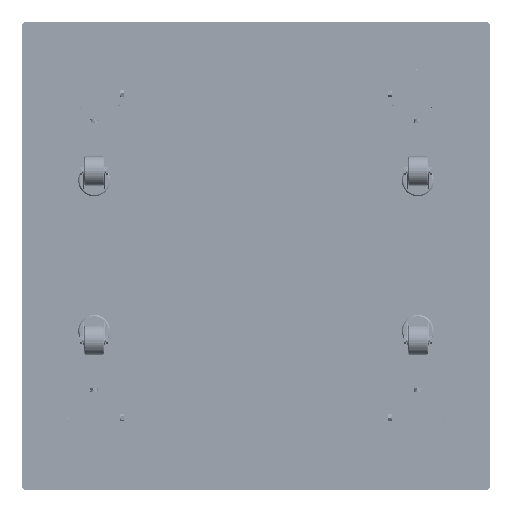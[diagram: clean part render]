
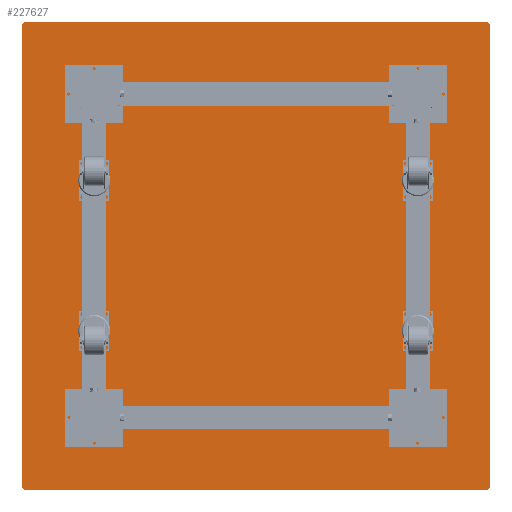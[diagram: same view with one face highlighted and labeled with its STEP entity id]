
A CAD part, top view. The second image highlights one B-rep face of the part: STEP entity #227627.
In plain terms, the highlighted planar face has unit normal (0, 0, 1).
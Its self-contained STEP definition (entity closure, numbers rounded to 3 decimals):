
#14764 = CIRCLE ( 'NONE', #134301, 10. ) ;
#32048 = FACE_OUTER_BOUND ( 'NONE', #264658, .T. ) ;
#34825 = VERTEX_POINT ( 'NONE', #326820 ) ;
#35478 = DIRECTION ( 'NONE',  ( 1., 0., 0. ) ) ;
#52862 = AXIS2_PLACEMENT_3D ( 'NONE', #204138, #232272, #35478 ) ;
#58276 = VECTOR ( 'NONE', #305941, 1000. ) ;
#66383 = ORIENTED_EDGE ( 'NONE', *, *, #175237, .T. ) ;
#69917 = LINE ( 'NONE', #358466, #58276 ) ;
#83842 = EDGE_CURVE ( 'NONE', #211481, #297357, #206272, .T. ) ;
#86466 = AXIS2_PLACEMENT_3D ( 'NONE', #177700, #320184, #323896 ) ;
#87194 = DIRECTION ( 'NONE',  ( 1., 0., 0. ) ) ;
#89036 = CARTESIAN_POINT ( 'NONE',  ( -910.012, -515.306, 1275.5 ) ) ;
#112713 = DIRECTION ( 'NONE',  ( 0., 0., 1. ) ) ;
#113808 = ORIENTED_EDGE ( 'NONE', *, *, #324212, .T. ) ;
#114555 = DIRECTION ( 'NONE',  ( 1., 0., 0. ) ) ;
#119583 = CARTESIAN_POINT ( 'NONE',  ( 279.988, -515.306, 1275.5 ) ) ;
#122741 = ORIENTED_EDGE ( 'NONE', *, *, #153892, .T. ) ;
#132825 = EDGE_CURVE ( 'NONE', #262690, #211481, #343993, .T. ) ;
#134301 = AXIS2_PLACEMENT_3D ( 'NONE', #317295, #171147, #257360 ) ;
#136035 = VERTEX_POINT ( 'NONE', #299733 ) ;
#140791 = PLANE ( 'NONE',  #242649 ) ;
#145846 = DIRECTION ( 'NONE',  ( 0., 0., 1. ) ) ;
#146291 = CARTESIAN_POINT ( 'NONE',  ( -310.012, 84.694, 1275.5 ) ) ;
#148872 = ORIENTED_EDGE ( 'NONE', *, *, #83842, .T. ) ;
#153892 = EDGE_CURVE ( 'NONE', #276919, #34825, #275777, .T. ) ;
#154847 = VECTOR ( 'NONE', #273940, 1000. ) ;
#160821 = CIRCLE ( 'NONE', #166722, 10. ) ;
#164496 = CARTESIAN_POINT ( 'NONE',  ( 289.988, -505.306, 1275.5 ) ) ;
#164842 = LINE ( 'NONE', #243671, #281528 ) ;
#166319 = EDGE_CURVE ( 'NONE', #356218, #219426, #160821, .T. ) ;
#166511 = CIRCLE ( 'NONE', #52862, 10. ) ;
#166722 = AXIS2_PLACEMENT_3D ( 'NONE', #262042, #145846, #258379 ) ;
#171147 = DIRECTION ( 'NONE',  ( 0., 0., 1. ) ) ;
#175237 = EDGE_CURVE ( 'NONE', #297357, #356218, #69917, .T. ) ;
#177700 = CARTESIAN_POINT ( 'NONE',  ( 279.988, -505.306, 1275.5 ) ) ;
#204138 = CARTESIAN_POINT ( 'NONE',  ( -900.012, -505.306, 1275.5 ) ) ;
#206272 = CIRCLE ( 'NONE', #86466, 10. ) ;
#208503 = CARTESIAN_POINT ( 'NONE',  ( -900.012, -515.306, 1275.5 ) ) ;
#211481 = VERTEX_POINT ( 'NONE', #119583 ) ;
#219426 = VERTEX_POINT ( 'NONE', #238185 ) ;
#227627 = ADVANCED_FACE ( 'NONE', ( #32048 ), #140791, .T. ) ;
#232272 = DIRECTION ( 'NONE',  ( 0., 0., 1. ) ) ;
#238185 = CARTESIAN_POINT ( 'NONE',  ( 279.988, 684.694, 1275.5 ) ) ;
#241108 = EDGE_CURVE ( 'NONE', #219426, #136035, #164842, .T. ) ;
#242307 = CARTESIAN_POINT ( 'NONE',  ( 289.988, 674.694, 1275.5 ) ) ;
#242649 = AXIS2_PLACEMENT_3D ( 'NONE', #146291, #112713, #114555 ) ;
#243671 = CARTESIAN_POINT ( 'NONE',  ( -910.012, 684.694, 1275.5 ) ) ;
#251355 = CARTESIAN_POINT ( 'NONE',  ( -910.012, 684.694, 1275.5 ) ) ;
#257360 = DIRECTION ( 'NONE',  ( 1., 0., 0. ) ) ;
#258379 = DIRECTION ( 'NONE',  ( 1., 0., 0. ) ) ;
#261136 = CARTESIAN_POINT ( 'NONE',  ( -910.012, 674.694, 1275.5 ) ) ;
#262042 = CARTESIAN_POINT ( 'NONE',  ( 279.988, 674.694, 1275.5 ) ) ;
#262690 = VERTEX_POINT ( 'NONE', #208503 ) ;
#264658 = EDGE_LOOP ( 'NONE', ( #340009, #329206, #122741, #113808, #288612, #148872, #66383, #265680 ) ) ;
#265680 = ORIENTED_EDGE ( 'NONE', *, *, #166319, .T. ) ;
#273940 = DIRECTION ( 'NONE',  ( 0., -1., 0. ) ) ;
#275777 = LINE ( 'NONE', #251355, #154847 ) ;
#276919 = VERTEX_POINT ( 'NONE', #261136 ) ;
#279190 = DIRECTION ( 'NONE',  ( -1., 0., 0. ) ) ;
#281528 = VECTOR ( 'NONE', #279190, 1000. ) ;
#288612 = ORIENTED_EDGE ( 'NONE', *, *, #132825, .T. ) ;
#297357 = VERTEX_POINT ( 'NONE', #164496 ) ;
#299733 = CARTESIAN_POINT ( 'NONE',  ( -900.012, 684.694, 1275.5 ) ) ;
#305941 = DIRECTION ( 'NONE',  ( 0., 1., 0. ) ) ;
#317295 = CARTESIAN_POINT ( 'NONE',  ( -900.012, 674.694, 1275.5 ) ) ;
#320184 = DIRECTION ( 'NONE',  ( 0., 0., 1. ) ) ;
#323896 = DIRECTION ( 'NONE',  ( 1., 0., 0. ) ) ;
#324212 = EDGE_CURVE ( 'NONE', #34825, #262690, #166511, .T. ) ;
#326820 = CARTESIAN_POINT ( 'NONE',  ( -910.012, -505.306, 1275.5 ) ) ;
#329206 = ORIENTED_EDGE ( 'NONE', *, *, #370802, .T. ) ;
#340009 = ORIENTED_EDGE ( 'NONE', *, *, #241108, .T. ) ;
#343993 = LINE ( 'NONE', #89036, #366415 ) ;
#356218 = VERTEX_POINT ( 'NONE', #242307 ) ;
#358466 = CARTESIAN_POINT ( 'NONE',  ( 289.988, 684.694, 1275.5 ) ) ;
#366415 = VECTOR ( 'NONE', #87194, 1000. ) ;
#370802 = EDGE_CURVE ( 'NONE', #136035, #276919, #14764, .T. ) ;
